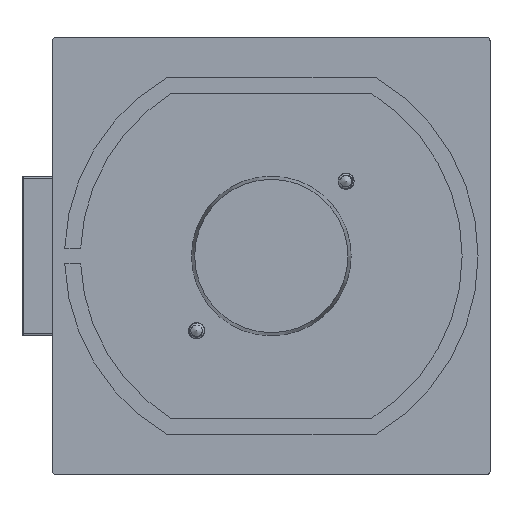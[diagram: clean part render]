
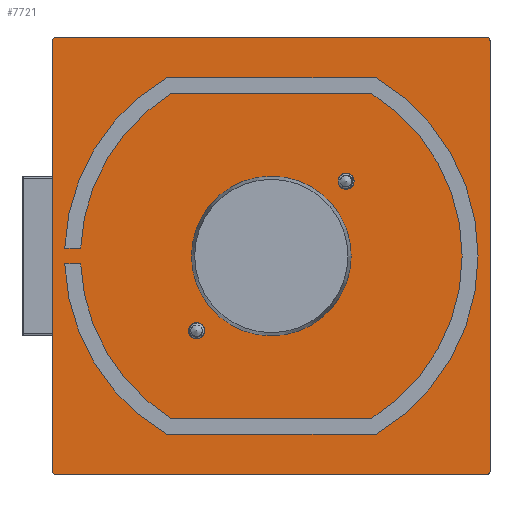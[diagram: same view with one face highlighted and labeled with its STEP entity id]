
A CAD part, front view. The second image highlights one B-rep face of the part: STEP entity #7721.
In plain terms, the highlighted planar face has unit normal (0, -1, 0).
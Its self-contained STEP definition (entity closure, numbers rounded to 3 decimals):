
#63=ELLIPSE('',#8595,1.003,1.);
#64=ELLIPSE('',#8596,1.003,1.);
#65=ELLIPSE('',#8597,1.003,1.);
#66=ELLIPSE('',#8598,1.003,1.);
#209=FACE_BOUND('',#1484,.T.);
#210=FACE_BOUND('',#1485,.T.);
#211=FACE_BOUND('',#1486,.T.);
#212=FACE_BOUND('',#1487,.T.);
#504=PLANE('',#8594);
#957=FACE_OUTER_BOUND('',#1483,.T.);
#1483=EDGE_LOOP('',(#6509,#6510,#6511,#6512,#6513,#6514,#6515,#6516));
#1484=EDGE_LOOP('',(#6517));
#1485=EDGE_LOOP('',(#6518));
#1486=EDGE_LOOP('',(#6519,#6520,#6521,#6522,#6523,#6524,#6525,#6526,#6527,
#6528,#6529,#6530));
#1487=EDGE_LOOP('',(#6531));
#1682=LINE('',#49964,#2150);
#1686=LINE('',#49976,#2154);
#1690=LINE('',#49988,#2158);
#1697=LINE('',#50010,#2165);
#1700=LINE('',#50018,#2168);
#1703=LINE('',#50025,#2171);
#1971=LINE('',#51180,#2439);
#1972=LINE('',#51184,#2440);
#1973=LINE('',#51188,#2441);
#1974=LINE('',#51192,#2442);
#2150=VECTOR('',#9551,10.);
#2154=VECTOR('',#9563,10.);
#2158=VECTOR('',#9575,10.);
#2165=VECTOR('',#9596,10.);
#2168=VECTOR('',#9605,10.);
#2171=VECTOR('',#9614,10.);
#2439=VECTOR('',#10750,10.);
#2440=VECTOR('',#10753,10.);
#2441=VECTOR('',#10756,10.);
#2442=VECTOR('',#10759,10.);
#2597=CIRCLE('',#8032,2.5);
#2623=CIRCLE('',#8085,2.5);
#2648=CIRCLE('',#8137,60.);
#2650=CIRCLE('',#8141,65.);
#2652=CIRCLE('',#8145,65.);
#2657=CIRCLE('',#8153,65.);
#2658=CIRCLE('',#8156,60.);
#2659=CIRCLE('',#8159,60.);
#2856=CIRCLE('',#8599,25.1);
#3067=VERTEX_POINT('',#12982);
#3122=VERTEX_POINT('',#31943);
#3173=VERTEX_POINT('',#49954);
#3174=VERTEX_POINT('',#49955);
#3177=VERTEX_POINT('',#49963);
#3179=VERTEX_POINT('',#49969);
#3181=VERTEX_POINT('',#49975);
#3183=VERTEX_POINT('',#49981);
#3185=VERTEX_POINT('',#49987);
#3192=VERTEX_POINT('',#50005);
#3193=VERTEX_POINT('',#50009);
#3194=VERTEX_POINT('',#50013);
#3195=VERTEX_POINT('',#50017);
#3196=VERTEX_POINT('',#50021);
#3480=VERTEX_POINT('',#51178);
#3481=VERTEX_POINT('',#51179);
#3482=VERTEX_POINT('',#51181);
#3483=VERTEX_POINT('',#51183);
#3484=VERTEX_POINT('',#51185);
#3485=VERTEX_POINT('',#51187);
#3486=VERTEX_POINT('',#51189);
#3487=VERTEX_POINT('',#51191);
#3488=VERTEX_POINT('',#51194);
#3825=EDGE_CURVE('',#3067,#3067,#2597,.T.);
#3901=EDGE_CURVE('',#3122,#3122,#2623,.T.);
#3973=EDGE_CURVE('',#3173,#3174,#2648,.T.);
#3977=EDGE_CURVE('',#3177,#3173,#1682,.T.);
#3980=EDGE_CURVE('',#3179,#3177,#2650,.T.);
#3983=EDGE_CURVE('',#3181,#3179,#1686,.T.);
#3986=EDGE_CURVE('',#3183,#3181,#2652,.T.);
#3989=EDGE_CURVE('',#3185,#3183,#1690,.T.);
#3998=EDGE_CURVE('',#3192,#3185,#2657,.T.);
#4000=EDGE_CURVE('',#3193,#3192,#1697,.T.);
#4002=EDGE_CURVE('',#3194,#3193,#2658,.T.);
#4004=EDGE_CURVE('',#3195,#3194,#1700,.T.);
#4006=EDGE_CURVE('',#3196,#3195,#2659,.T.);
#4008=EDGE_CURVE('',#3174,#3196,#1703,.T.);
#4499=EDGE_CURVE('',#3480,#3481,#1971,.T.);
#4500=EDGE_CURVE('',#3482,#3481,#63,.T.);
#4501=EDGE_CURVE('',#3482,#3483,#1972,.T.);
#4502=EDGE_CURVE('',#3484,#3483,#64,.T.);
#4503=EDGE_CURVE('',#3484,#3485,#1973,.T.);
#4504=EDGE_CURVE('',#3486,#3485,#65,.T.);
#4505=EDGE_CURVE('',#3486,#3487,#1974,.T.);
#4506=EDGE_CURVE('',#3480,#3487,#66,.T.);
#4507=EDGE_CURVE('',#3488,#3488,#2856,.T.);
#6509=ORIENTED_EDGE('',*,*,#4499,.T.);
#6510=ORIENTED_EDGE('',*,*,#4500,.F.);
#6511=ORIENTED_EDGE('',*,*,#4501,.T.);
#6512=ORIENTED_EDGE('',*,*,#4502,.F.);
#6513=ORIENTED_EDGE('',*,*,#4503,.T.);
#6514=ORIENTED_EDGE('',*,*,#4504,.F.);
#6515=ORIENTED_EDGE('',*,*,#4505,.T.);
#6516=ORIENTED_EDGE('',*,*,#4506,.F.);
#6517=ORIENTED_EDGE('',*,*,#3825,.T.);
#6518=ORIENTED_EDGE('',*,*,#3901,.T.);
#6519=ORIENTED_EDGE('',*,*,#3989,.T.);
#6520=ORIENTED_EDGE('',*,*,#3986,.T.);
#6521=ORIENTED_EDGE('',*,*,#3983,.T.);
#6522=ORIENTED_EDGE('',*,*,#3980,.T.);
#6523=ORIENTED_EDGE('',*,*,#3977,.T.);
#6524=ORIENTED_EDGE('',*,*,#3973,.T.);
#6525=ORIENTED_EDGE('',*,*,#4008,.T.);
#6526=ORIENTED_EDGE('',*,*,#4006,.T.);
#6527=ORIENTED_EDGE('',*,*,#4004,.T.);
#6528=ORIENTED_EDGE('',*,*,#4002,.T.);
#6529=ORIENTED_EDGE('',*,*,#4000,.T.);
#6530=ORIENTED_EDGE('',*,*,#3998,.T.);
#6531=ORIENTED_EDGE('',*,*,#4507,.F.);
#7721=ADVANCED_FACE('',(#957,#209,#210,#211,#212),#504,.F.);
#8032=AXIS2_PLACEMENT_3D('',#12983,#9326,#9327);
#8085=AXIS2_PLACEMENT_3D('',#31944,#9436,#9437);
#8137=AXIS2_PLACEMENT_3D('',#49956,#9543,#9544);
#8141=AXIS2_PLACEMENT_3D('',#49970,#9556,#9557);
#8145=AXIS2_PLACEMENT_3D('',#49982,#9568,#9569);
#8153=AXIS2_PLACEMENT_3D('',#50006,#9591,#9592);
#8156=AXIS2_PLACEMENT_3D('',#50014,#9600,#9601);
#8159=AXIS2_PLACEMENT_3D('',#50022,#9609,#9610);
#8594=AXIS2_PLACEMENT_3D('',#51177,#10748,#10749);
#8595=AXIS2_PLACEMENT_3D('',#51182,#10751,#10752);
#8596=AXIS2_PLACEMENT_3D('',#51186,#10754,#10755);
#8597=AXIS2_PLACEMENT_3D('',#51190,#10757,#10758);
#8598=AXIS2_PLACEMENT_3D('',#51193,#10760,#10761);
#8599=AXIS2_PLACEMENT_3D('',#51195,#10762,#10763);
#9326=DIRECTION('center_axis',(0.,1.,0.));
#9327=DIRECTION('ref_axis',(0.968,0.,-0.251));
#9436=DIRECTION('center_axis',(0.,1.,0.));
#9437=DIRECTION('ref_axis',(-0.841,0.,-0.541));
#9543=DIRECTION('center_axis',(0.,-1.,0.));
#9544=DIRECTION('ref_axis',(0.527,0.,0.85));
#9551=DIRECTION('',(1.,0.,0.));
#9556=DIRECTION('center_axis',(0.,1.,0.));
#9557=DIRECTION('ref_axis',(-0.508,0.,-0.862));
#9563=DIRECTION('',(-1.,0.,0.));
#9568=DIRECTION('center_axis',(0.,1.,0.));
#9569=DIRECTION('ref_axis',(0.508,0.,0.862));
#9575=DIRECTION('',(1.,0.,0.));
#9591=DIRECTION('center_axis',(0.,1.,0.));
#9592=DIRECTION('ref_axis',(-0.999,0.,0.038));
#9596=DIRECTION('',(-1.,0.,0.));
#9600=DIRECTION('center_axis',(0.,-1.,0.));
#9601=DIRECTION('ref_axis',(0.999,0.,-0.042));
#9605=DIRECTION('',(-1.,0.,0.));
#9609=DIRECTION('center_axis',(0.,-1.,0.));
#9610=DIRECTION('ref_axis',(-0.527,0.,-0.85));
#9614=DIRECTION('',(1.,0.,0.));
#10748=DIRECTION('center_axis',(0.,1.,0.));
#10749=DIRECTION('ref_axis',(0.,0.,
1.));
#10750=DIRECTION('',(0.,0.,-1.));
#10751=DIRECTION('center_axis',(0.,1.,0.));
#10752=DIRECTION('ref_axis',(-0.707,0.,-0.707));
#10753=DIRECTION('',(1.,0.,0.));
#10754=DIRECTION('center_axis',(0.,1.,0.));
#10755=DIRECTION('ref_axis',(0.707,0.,-0.707));
#10756=DIRECTION('',(0.,0.,1.));
#10757=DIRECTION('center_axis',(0.,1.,0.));
#10758=DIRECTION('ref_axis',(0.707,0.,0.707));
#10759=DIRECTION('',(-1.,0.,0.));
#10760=DIRECTION('center_axis',(0.,1.,0.));
#10761=DIRECTION('ref_axis',(-0.707,0.,0.707));
#10762=DIRECTION('center_axis',(0.,-1.,0.));
#10763=DIRECTION('ref_axis',(-1.,0.,0.));
#12982=CARTESIAN_POINT('',(21.08,23.115,24.127));
#12983=CARTESIAN_POINT('Origin',(23.5,23.115,23.5));
#31943=CARTESIAN_POINT('',(-21.397,23.115,-22.148));
#31944=CARTESIAN_POINT('Origin',(-23.5,23.115,-23.5));
#49954=CARTESIAN_POINT('',(-59.948,23.115,-2.5));
#49955=CARTESIAN_POINT('',(-31.607,23.115,-51.));
#49956=CARTESIAN_POINT('Origin',(0.,23.115,
0.));
#49963=CARTESIAN_POINT('',(-64.952,23.115,-2.5));
#49964=CARTESIAN_POINT('',(-29.974,23.115,-2.5));
#49969=CARTESIAN_POINT('',(-33.,23.115,-56.));
#49970=CARTESIAN_POINT('Origin',(0.,23.115,
0.));
#49975=CARTESIAN_POINT('',(33.,23.115,-56.));
#49976=CARTESIAN_POINT('',(0.,23.115,-56.));
#49981=CARTESIAN_POINT('',(33.,23.115,56.));
#49982=CARTESIAN_POINT('Origin',(0.,23.115,
0.));
#49987=CARTESIAN_POINT('',(-33.,23.115,56.));
#49988=CARTESIAN_POINT('',(0.,23.115,56.));
#50005=CARTESIAN_POINT('',(-64.952,23.115,2.5));
#50006=CARTESIAN_POINT('Origin',(0.,23.115,
0.));
#50009=CARTESIAN_POINT('',(-59.948,23.115,2.5));
#50010=CARTESIAN_POINT('',(-32.476,23.115,2.5));
#50013=CARTESIAN_POINT('',(-31.607,23.115,51.));
#50014=CARTESIAN_POINT('Origin',(0.,23.115,
0.));
#50017=CARTESIAN_POINT('',(31.607,23.115,51.));
#50018=CARTESIAN_POINT('',(0.,23.115,51.));
#50021=CARTESIAN_POINT('',(31.607,23.115,-51.));
#50022=CARTESIAN_POINT('Origin',(0.,23.115,
0.));
#50025=CARTESIAN_POINT('',(0.,23.115,-51.));
#51177=CARTESIAN_POINT('Origin',(0.,23.115,
0.));
#51178=CARTESIAN_POINT('',(-68.75,23.115,67.751));
#51179=CARTESIAN_POINT('',(-68.75,23.115,-67.751));
#51180=CARTESIAN_POINT('',(-68.75,23.115,68.75));
#51181=CARTESIAN_POINT('',(-67.751,23.115,-68.75));
#51182=CARTESIAN_POINT('Origin',(-67.749,23.115,-67.749));
#51183=CARTESIAN_POINT('',(67.751,23.115,-68.75));
#51184=CARTESIAN_POINT('',(-68.75,23.115,-68.75));
#51185=CARTESIAN_POINT('',(68.75,23.115,-67.751));
#51186=CARTESIAN_POINT('Origin',(67.749,23.115,-67.749));
#51187=CARTESIAN_POINT('',(68.75,23.115,67.751));
#51188=CARTESIAN_POINT('',(68.75,23.115,-68.75));
#51189=CARTESIAN_POINT('',(67.751,23.115,68.75));
#51190=CARTESIAN_POINT('Origin',(67.749,23.115,67.749));
#51191=CARTESIAN_POINT('',(-67.751,23.115,68.75));
#51192=CARTESIAN_POINT('',(68.75,23.115,68.75));
#51193=CARTESIAN_POINT('Origin',(-67.749,23.115,67.749));
#51194=CARTESIAN_POINT('',(25.1,23.115,0.));
#51195=CARTESIAN_POINT('Origin',(0.,23.115,0.));
